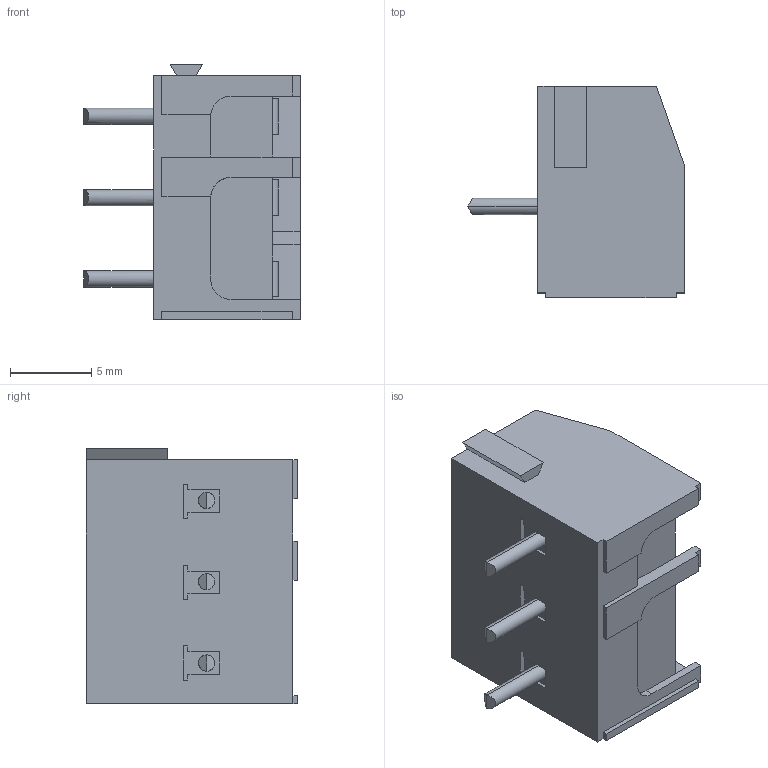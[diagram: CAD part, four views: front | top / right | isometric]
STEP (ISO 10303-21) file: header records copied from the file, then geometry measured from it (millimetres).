
FILE_DESCRIPTION (( 'STEP AP214' ), '1' );
FILE_NAME ('971-TX-DS-03.STEP', '2007-12-10T06:37:56', ( ' ' ), ( '' ), 'SwSTEP 2.0', 'SolidWorks 2007', '' );
FILE_SCHEMA (( 'AUTOMOTIVE_DESIGN' ));
Length unit declared in the file: millimetre
Products named in the file (1): 971-TX-DS-03
Bounding box: 13.3 x 13 x 15.7 mm (x, y, z)
Volume: 1352.4 mm3; surface area: 1349.9 mm2
Topology: 4 solids, 4 shells, 263 faces, 758 edges, 501 vertices
Faces by surface type: plane 209, cylinder 42, cone 12
Entity records: 8795 total; most frequent: CARTESIAN_POINT 1860, ORIENTED_EDGE 1516, DIRECTION 1324, EDGE_CURVE 758, VECTOR 544, LINE 544, VERTEX_POINT 501, AXIS2_PLACEMENT_3D 390
